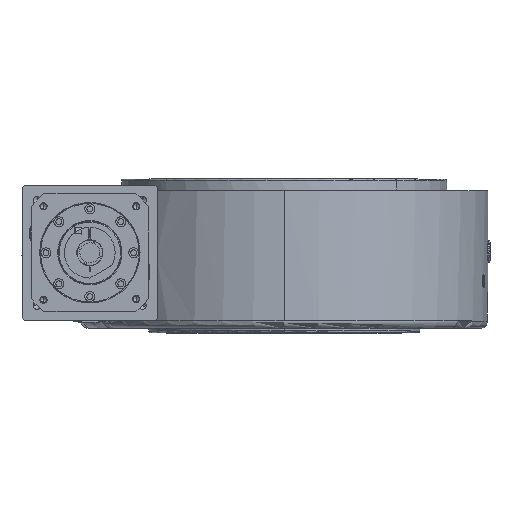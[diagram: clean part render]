
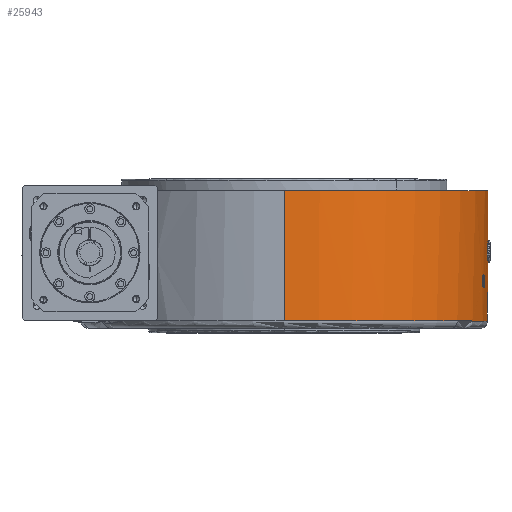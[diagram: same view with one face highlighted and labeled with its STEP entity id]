
A CAD part, top view. The second image highlights one B-rep face of the part: STEP entity #25943.
In plain terms, the highlighted cylindrical face has radius 225 mm (diameter 450 mm), a partial arc.
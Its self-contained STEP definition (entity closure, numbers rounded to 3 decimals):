
#20129=DIRECTION('',(0.,1.,0.));
#20130=VECTOR('',#20129,144.);
#20131=CARTESIAN_POINT('',(-0.001,-12.,
225.));
#20132=LINE('',#20131,#20130);
#20176=DIRECTION('',(0.,1.,0.));
#20177=VECTOR('',#20176,144.);
#20178=CARTESIAN_POINT('',(0.001,-12.,
-225.));
#20179=LINE('',#20178,#20177);
#20247=CARTESIAN_POINT('',(0.,132.,0.));
#20248=DIRECTION('',(0.,1.,0.));
#20249=DIRECTION('',(0.,0.,1.));
#20250=AXIS2_PLACEMENT_3D('',#20247,#20248,#20249);
#20457=CARTESIAN_POINT('',(0.,-12.,
0.));
#20458=DIRECTION('',(0.,-1.,0.));
#20459=DIRECTION('',(0.851,0.,0.526));
#20460=AXIS2_PLACEMENT_3D('',#20457,#20458,#20459);
#20664=CARTESIAN_POINT('',(0.,-12.,
0.));
#20665=DIRECTION('',(0.,-1.,0.));
#20666=DIRECTION('',(0.,0.,-1.));
#20667=AXIS2_PLACEMENT_3D('',#20664,#20665,#20666);
#24097=CARTESIAN_POINT('',(221.768,92.,-38.));
#24098=CARTESIAN_POINT('',(221.768,91.275,-38.));
#24099=CARTESIAN_POINT('',(221.729,89.82,
-38.227));
#24100=CARTESIAN_POINT('',(221.555,87.835,
-39.23));
#24101=CARTESIAN_POINT('',(221.272,86.254,
-40.8));
#24102=CARTESIAN_POINT('',(220.896,85.232,
-42.795));
#24103=CARTESIAN_POINT('',(220.455,84.881,
-45.017));
#24104=CARTESIAN_POINT('',(219.987,85.245,
-47.246));
#24105=CARTESIAN_POINT('',(219.549,86.282,
-49.239));
#24106=CARTESIAN_POINT('',(219.192,87.878,
-50.8));
#24107=CARTESIAN_POINT('',(218.961,89.847,
-51.778));
#24108=CARTESIAN_POINT('',(218.909,91.285,-52.));
#24109=CARTESIAN_POINT('',(218.909,92.,-52.));
#24115=CARTESIAN_POINT('',(218.909,92.,-52.));
#24116=CARTESIAN_POINT('',(218.909,92.718,-52.));
#24117=CARTESIAN_POINT('',(218.962,94.162,
-51.777));
#24118=CARTESIAN_POINT('',(219.195,96.143,
-50.785));
#24119=CARTESIAN_POINT('',(219.554,97.734,
-49.218));
#24120=CARTESIAN_POINT('',(219.994,98.766,
-47.215));
#24121=CARTESIAN_POINT('',(220.461,99.119,
-44.987));
#24122=CARTESIAN_POINT('',(220.902,98.758,
-42.764));
#24123=CARTESIAN_POINT('',(221.276,97.729,
-40.778));
#24124=CARTESIAN_POINT('',(221.558,96.142,
-39.215));
#24125=CARTESIAN_POINT('',(221.729,94.171,
-38.226));
#24126=CARTESIAN_POINT('',(221.768,92.722,-38.));
#24127=CARTESIAN_POINT('',(221.768,92.,-38.));
#24161=CARTESIAN_POINT('',(218.909,32.,52.));
#24162=CARTESIAN_POINT('',(218.909,31.282,52.));
#24163=CARTESIAN_POINT('',(218.962,29.838,51.777));
#24164=CARTESIAN_POINT('',(219.195,27.857,50.785));
#24165=CARTESIAN_POINT('',(219.553,26.266,49.218));
#24166=CARTESIAN_POINT('',(219.994,25.234,47.215));
#24167=CARTESIAN_POINT('',(220.461,24.881,44.987));
#24168=CARTESIAN_POINT('',(220.902,25.242,42.764));
#24169=CARTESIAN_POINT('',(221.276,26.271,40.778));
#24170=CARTESIAN_POINT('',(221.558,27.858,39.215));
#24171=CARTESIAN_POINT('',(221.729,29.829,38.226));
#24172=CARTESIAN_POINT('',(221.768,31.278,38.));
#24173=CARTESIAN_POINT('',(221.768,32.,38.));
#24179=CARTESIAN_POINT('',(221.768,32.,38.));
#24180=CARTESIAN_POINT('',(221.768,32.725,38.));
#24181=CARTESIAN_POINT('',(221.729,34.18,38.227));
#24182=CARTESIAN_POINT('',(221.555,36.165,39.23));
#24183=CARTESIAN_POINT('',(221.272,37.746,40.8));
#24184=CARTESIAN_POINT('',(220.896,38.768,42.795));
#24185=CARTESIAN_POINT('',(220.455,39.119,45.017));
#24186=CARTESIAN_POINT('',(219.987,38.755,47.246));
#24187=CARTESIAN_POINT('',(219.549,37.718,49.239));
#24188=CARTESIAN_POINT('',(219.192,36.122,50.8));
#24189=CARTESIAN_POINT('',(218.961,34.153,51.778));
#24190=CARTESIAN_POINT('',(218.909,32.715,52.));
#24191=CARTESIAN_POINT('',(218.909,32.,52.));
#24211=CARTESIAN_POINT('',(224.624,65.,13.));
#24212=CARTESIAN_POINT('',(224.624,63.765,13.));
#24213=CARTESIAN_POINT('',(224.645,61.29,12.646));
#24214=CARTESIAN_POINT('',(224.73,57.861,11.079));
#24215=CARTESIAN_POINT('',(224.841,55.019,8.607));
#24216=CARTESIAN_POINT('',(224.943,52.992,5.431));
#24217=CARTESIAN_POINT('',(225.003,51.95,1.829));
#24218=CARTESIAN_POINT('',(225.002,51.963,
-1.92));
#24219=CARTESIAN_POINT('',(224.941,53.03,
-5.509));
#24220=CARTESIAN_POINT('',(224.839,55.063,
-8.655));
#24221=CARTESIAN_POINT('',(224.729,57.903,
-11.103));
#24222=CARTESIAN_POINT('',(224.645,61.312,
-12.65));
#24223=CARTESIAN_POINT('',(224.624,63.772,-13.));
#24224=CARTESIAN_POINT('',(224.624,65.,-13.));
#24250=CARTESIAN_POINT('',(224.624,65.,-13.));
#24251=CARTESIAN_POINT('',(224.624,66.235,-13.));
#24252=CARTESIAN_POINT('',(224.645,68.71,
-12.646));
#24253=CARTESIAN_POINT('',(224.73,72.139,
-11.079));
#24254=CARTESIAN_POINT('',(224.841,74.981,
-8.607));
#24255=CARTESIAN_POINT('',(224.943,77.008,
-5.431));
#24256=CARTESIAN_POINT('',(225.003,78.05,
-1.829));
#24257=CARTESIAN_POINT('',(225.002,78.037,1.92));
#24258=CARTESIAN_POINT('',(224.941,76.97,5.509));
#24259=CARTESIAN_POINT('',(224.839,74.937,8.655));
#24260=CARTESIAN_POINT('',(224.729,72.097,11.103));
#24261=CARTESIAN_POINT('',(224.645,68.688,12.65));
#24262=CARTESIAN_POINT('',(224.624,66.228,13.));
#24263=CARTESIAN_POINT('',(224.624,65.,13.));
#24593=CARTESIAN_POINT('',(191.404,-12.,
118.277));
#24595=VERTEX_POINT('',#24593);
#24658=CARTESIAN_POINT('',(0.,132.,225.));
#24660=VERTEX_POINT('',#24658);
#24711=CARTESIAN_POINT('',(0.,-12.,
225.));
#24712=VERTEX_POINT('',#24711);
#24775=CARTESIAN_POINT('',(0.,-12.,
-225.));
#24776=VERTEX_POINT('',#24775);
#24947=CARTESIAN_POINT('',(218.909,92.,-52.));
#24949=VERTEX_POINT('',#24947);
#24993=CARTESIAN_POINT('',(0.,132.,-225.));
#24994=VERTEX_POINT('',#24993);
#25017=VERTEX_POINT('',#24161);
#25018=VERTEX_POINT('',#24173);
#25033=VERTEX_POINT('',#24127);
#25337=CARTESIAN_POINT('',(224.624,65.,13.));
#25339=VERTEX_POINT('',#25337);
#25348=VERTEX_POINT('',#24224);
#25909=CARTESIAN_POINT('',(0.,132.,0.));
#25910=DIRECTION('',(0.,-1.,0.));
#25911=DIRECTION('',(0.,0.,-1.));
#25912=AXIS2_PLACEMENT_3D('',#25909,#25910,#25911);
#25913=CYLINDRICAL_SURFACE('',#25912,225.);
#25915=ORIENTED_EDGE('',*,*,#25914,.T.);
#25917=ORIENTED_EDGE('',*,*,#25916,.F.);
#25919=ORIENTED_EDGE('',*,*,#25918,.T.);
#25921=ORIENTED_EDGE('',*,*,#25920,.T.);
#25922=ORIENTED_EDGE('',*,*,#25893,.T.);
#25923=EDGE_LOOP('',(#25915,#25917,#25919,#25921,#25922));
#25924=FACE_OUTER_BOUND('',#25923,.F.);
#25926=ORIENTED_EDGE('',*,*,#25925,.T.);
#25928=ORIENTED_EDGE('',*,*,#25927,.T.);
#25929=EDGE_LOOP('',(#25926,#25928));
#25930=FACE_BOUND('',#25929,.F.);
#25932=ORIENTED_EDGE('',*,*,#25931,.T.);
#25934=ORIENTED_EDGE('',*,*,#25933,.T.);
#25935=EDGE_LOOP('',(#25932,#25934));
#25936=FACE_BOUND('',#25935,.F.);
#25938=ORIENTED_EDGE('',*,*,#25937,.T.);
#25940=ORIENTED_EDGE('',*,*,#25939,.T.);
#25941=EDGE_LOOP('',(#25938,#25940));
#25942=FACE_BOUND('',#25941,.F.);
#25943=ADVANCED_FACE('',(#25924,#25930,#25936,#25942),#25913,.T.);
#20251=CIRCLE('',#20250,225.);
#20461=CIRCLE('',#20460,225.);
#20668=CIRCLE('',#20667,225.);
#24110=B_SPLINE_CURVE_WITH_KNOTS('',3,(#24097,#24098,#24099,#24100,#24101,
#24102,#24103,#24104,#24105,#24106,#24107,#24108,#24109),.UNSPECIFIED.,.F.,.F.,(
4,1,1,1,1,1,1,1,1,1,4),(0.,0.1,0.2,0.3,0.4,0.5,0.6,0.7,0.8,
0.9,1.),.UNSPECIFIED.);
#24128=B_SPLINE_CURVE_WITH_KNOTS('',3,(#24115,#24116,#24117,#24118,#24119,
#24120,#24121,#24122,#24123,#24124,#24125,#24126,#24127),.UNSPECIFIED.,.F.,.F.,(
4,1,1,1,1,1,1,1,1,1,4),(0.,0.1,0.2,0.3,0.4,0.5,0.6,0.7,0.8,
0.9,1.),.UNSPECIFIED.);
#24174=B_SPLINE_CURVE_WITH_KNOTS('',3,(#24161,#24162,#24163,#24164,#24165,
#24166,#24167,#24168,#24169,#24170,#24171,#24172,#24173),.UNSPECIFIED.,.F.,.F.,(
4,1,1,1,1,1,1,1,1,1,4),(0.,0.1,0.2,0.3,0.4,0.5,0.6,0.7,0.8,
0.9,1.),.UNSPECIFIED.);
#24192=B_SPLINE_CURVE_WITH_KNOTS('',3,(#24179,#24180,#24181,#24182,#24183,
#24184,#24185,#24186,#24187,#24188,#24189,#24190,#24191),.UNSPECIFIED.,.F.,.F.,(
4,1,1,1,1,1,1,1,1,1,4),(0.,0.1,0.2,0.3,0.4,0.5,0.6,0.7,0.8,
0.9,1.),.UNSPECIFIED.);
#24225=B_SPLINE_CURVE_WITH_KNOTS('',3,(#24211,#24212,#24213,#24214,#24215,
#24216,#24217,#24218,#24219,#24220,#24221,#24222,#24223,#24224),.UNSPECIFIED.,
.F.,.F.,(4,1,1,1,1,1,1,1,1,1,1,4),(0.,0.091,0.182,
0.273,0.364,0.455,0.545,
0.636,0.727,0.818,0.909,1.),
.UNSPECIFIED.);
#24264=B_SPLINE_CURVE_WITH_KNOTS('',3,(#24250,#24251,#24252,#24253,#24254,
#24255,#24256,#24257,#24258,#24259,#24260,#24261,#24262,#24263),.UNSPECIFIED.,
.F.,.F.,(4,1,1,1,1,1,1,1,1,1,1,4),(0.,0.091,0.182,
0.273,0.364,0.455,0.545,
0.636,0.727,0.818,0.909,1.),
.UNSPECIFIED.);
#25893=EDGE_CURVE('',#24712,#24660,#20132,.T.);
#25914=EDGE_CURVE('',#24660,#24994,#20251,.T.);
#25916=EDGE_CURVE('',#24776,#24994,#20179,.T.);
#25918=EDGE_CURVE('',#24776,#24595,#20668,.T.);
#25920=EDGE_CURVE('',#24595,#24712,#20461,.T.);
#25925=EDGE_CURVE('',#25033,#24949,#24110,.T.);
#25927=EDGE_CURVE('',#24949,#25033,#24128,.T.);
#25931=EDGE_CURVE('',#25017,#25018,#24174,.T.);
#25933=EDGE_CURVE('',#25018,#25017,#24192,.T.);
#25937=EDGE_CURVE('',#25339,#25348,#24225,.T.);
#25939=EDGE_CURVE('',#25348,#25339,#24264,.T.);
